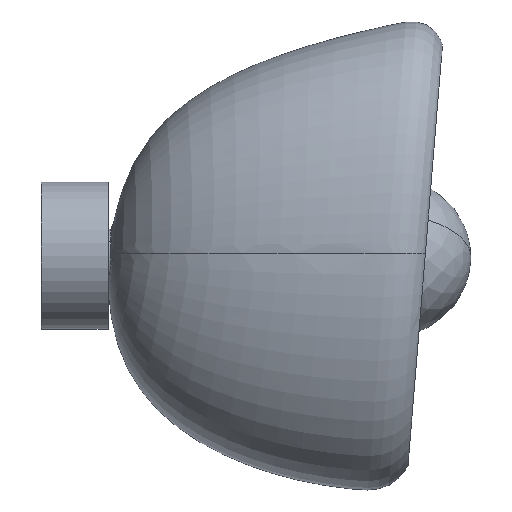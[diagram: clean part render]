
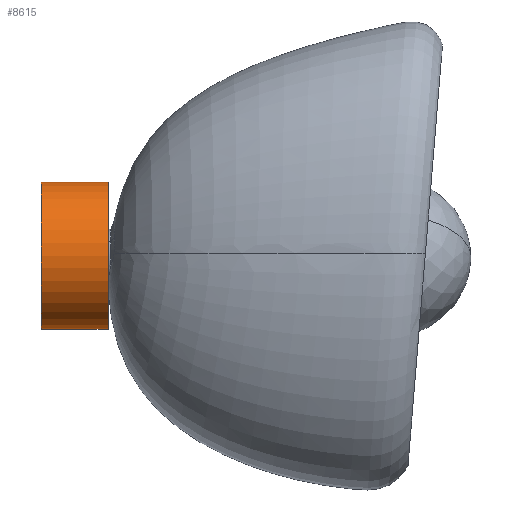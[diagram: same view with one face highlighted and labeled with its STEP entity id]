
A CAD part, left-side view. The second image highlights one B-rep face of the part: STEP entity #8615.
In plain terms, the highlighted cylindrical face has radius 27.5 mm (diameter 55 mm), a partial arc.
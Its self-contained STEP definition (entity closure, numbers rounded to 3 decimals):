
#1087 = EDGE_CURVE ( 'NONE', #11329, #3450, #1589, .T. ) ;
#1589 = CIRCLE ( 'NONE', #11758, 27.5 ) ;
#1921 = CARTESIAN_POINT ( 'NONE',  ( 0., 0., 0. ) ) ;
#2204 = CARTESIAN_POINT ( 'NONE',  ( 0., 0., 27.5 ) ) ;
#2295 = VECTOR ( 'NONE', #10831, 1000. ) ;
#2477 = DIRECTION ( 'NONE',  ( 0., 1., 0. ) ) ;
#2511 = EDGE_LOOP ( 'NONE', ( #10189, #5937, #11024, #12772 ) ) ;
#3125 = CARTESIAN_POINT ( 'NONE',  ( 0., -25., 27.5 ) ) ;
#3228 = DIRECTION ( 'NONE',  ( 0., -1., 0. ) ) ;
#3438 = LINE ( 'NONE', #7757, #4107 ) ;
#3450 = VERTEX_POINT ( 'NONE', #7308 ) ;
#3537 = CARTESIAN_POINT ( 'NONE',  ( 0., -25., 0. ) ) ;
#4107 = VECTOR ( 'NONE', #3228, 1000. ) ;
#5051 = EDGE_CURVE ( 'NONE', #8622, #13048, #12339, .T. ) ;
#5170 = DIRECTION ( 'NONE',  ( 0., 0., 1. ) ) ;
#5937 = ORIENTED_EDGE ( 'NONE', *, *, #1087, .F. ) ;
#6169 = DIRECTION ( 'NONE',  ( 0., 1., 0. ) ) ;
#6481 = AXIS2_PLACEMENT_3D ( 'NONE', #8902, #13229, #9809 ) ;
#6798 = DIRECTION ( 'NONE',  ( 0., 0., 1. ) ) ;
#7308 = CARTESIAN_POINT ( 'NONE',  ( 0., 0., 27.5 ) ) ;
#7757 = CARTESIAN_POINT ( 'NONE',  ( 0., 0., -27.5 ) ) ;
#8615 = ADVANCED_FACE ( 'NONE', ( #11815 ), #8827, .T. ) ;
#8622 = VERTEX_POINT ( 'NONE', #10741 ) ;
#8827 = CYLINDRICAL_SURFACE ( 'NONE', #6481, 27.5 ) ;
#8902 = CARTESIAN_POINT ( 'NONE',  ( 0., 0., 0. ) ) ;
#9562 = LINE ( 'NONE', #2204, #2295 ) ;
#9685 = CARTESIAN_POINT ( 'NONE',  ( 0., 0., -27.5 ) ) ;
#9809 = DIRECTION ( 'NONE',  ( 0., 0., -1. ) ) ;
#10189 = ORIENTED_EDGE ( 'NONE', *, *, #13413, .F. ) ;
#10741 = CARTESIAN_POINT ( 'NONE',  ( 0., -25., -27.5 ) ) ;
#10831 = DIRECTION ( 'NONE',  ( 0., -1., 0. ) ) ;
#11024 = ORIENTED_EDGE ( 'NONE', *, *, #12208, .T. ) ;
#11329 = VERTEX_POINT ( 'NONE', #9685 ) ;
#11758 = AXIS2_PLACEMENT_3D ( 'NONE', #1921, #6169, #5170 ) ;
#11815 = FACE_OUTER_BOUND ( 'NONE', #2511, .T. ) ;
#11876 = AXIS2_PLACEMENT_3D ( 'NONE', #3537, #2477, #6798 ) ;
#12208 = EDGE_CURVE ( 'NONE', #11329, #8622, #3438, .T. ) ;
#12339 = CIRCLE ( 'NONE', #11876, 27.5 ) ;
#12772 = ORIENTED_EDGE ( 'NONE', *, *, #5051, .T. ) ;
#13048 = VERTEX_POINT ( 'NONE', #3125 ) ;
#13229 = DIRECTION ( 'NONE',  ( 0., -1., 0. ) ) ;
#13413 = EDGE_CURVE ( 'NONE', #3450, #13048, #9562, .T. ) ;
